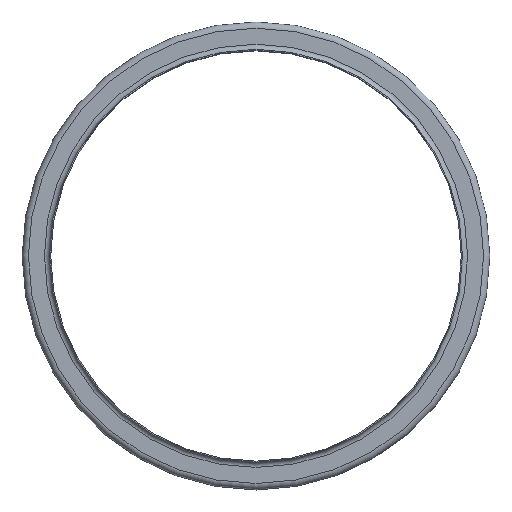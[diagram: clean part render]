
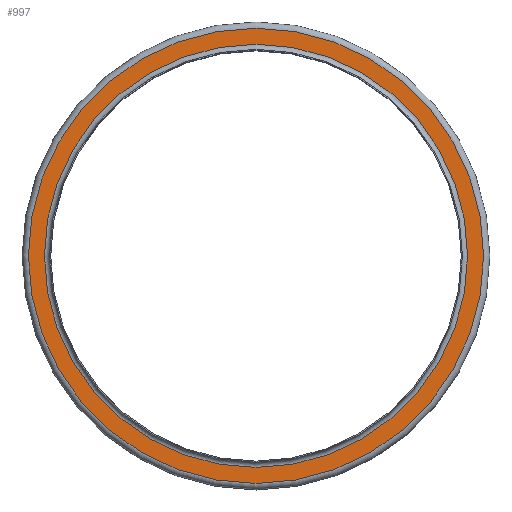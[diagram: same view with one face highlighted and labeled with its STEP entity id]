
A CAD part, top view. The second image highlights one B-rep face of the part: STEP entity #997.
In plain terms, the highlighted planar face has unit normal (0, 0, 1).
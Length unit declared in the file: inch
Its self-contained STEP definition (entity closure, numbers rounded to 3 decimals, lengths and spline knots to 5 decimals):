
#95=FACE_BOUND('',#269,.T.);
#162=FACE_OUTER_BOUND('',#268,.T.);
#268=EDGE_LOOP('',(#769));
#269=EDGE_LOOP('',(#770));
#382=CIRCLE('',#1186,9.274);
#383=CIRCLE('',#1188,9.976);
#463=VERTEX_POINT('',#1810);
#464=VERTEX_POINT('',#1814);
#568=EDGE_CURVE('',#463,#463,#382,.T.);
#569=EDGE_CURVE('',#464,#464,#383,.T.);
#769=ORIENTED_EDGE('',*,*,#569,.F.);
#770=ORIENTED_EDGE('',*,*,#568,.T.);
#851=PLANE('',#1187);
#997=ADVANCED_FACE('',(#162,#95),#851,.T.);
#1186=AXIS2_PLACEMENT_3D('',#1812,#1522,#1523);
#1187=AXIS2_PLACEMENT_3D('',#1813,#1524,#1525);
#1188=AXIS2_PLACEMENT_3D('',#1815,#1526,#1527);
#1522=DIRECTION('center_axis',(0.,0.,-1.));
#1523=DIRECTION('ref_axis',(1.,0.,0.));
#1524=DIRECTION('center_axis',(0.,0.,1.));
#1525=DIRECTION('ref_axis',(1.,0.,0.));
#1526=DIRECTION('center_axis',(0.,0.,-1.));
#1527=DIRECTION('ref_axis',(1.,0.,0.));
#1810=CARTESIAN_POINT('',(9.274,0.,-0.226));
#1812=CARTESIAN_POINT('Origin',(0.,0.,-0.226));
#1813=CARTESIAN_POINT('Origin',(0.,9.976,-0.226));
#1814=CARTESIAN_POINT('',(9.976,0.,-0.226));
#1815=CARTESIAN_POINT('Origin',(0.,0.,-0.226));
